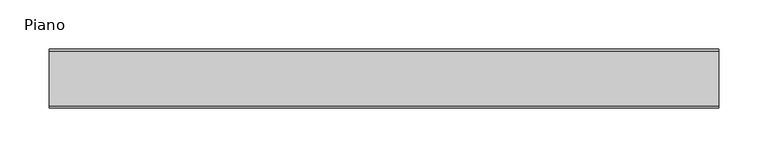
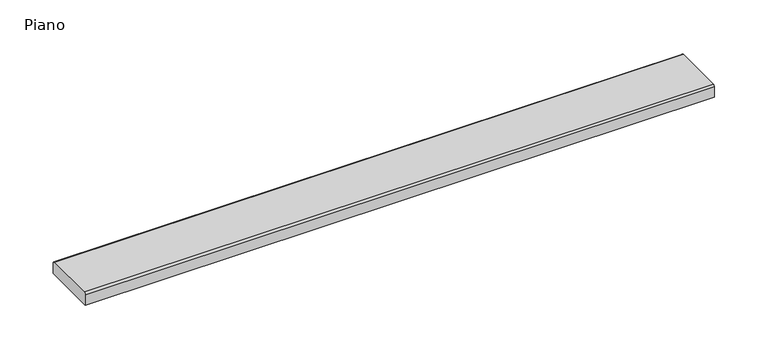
"""IFC4 building model written with IfcOpenShell, lengths in millimetres: sanitary terminal geometry, ZZZ_do not use_PF_UN_grating ShowerDrain C (INT)_ACO : Piano."""

import ifcopenshell
import ifcopenshell.guid

model = None  # the IFC model being written
_history = None  # IfcOwnerHistory: only IFC2X3 demands one
_inside = {}  # id of a spatial element -> (the spatial element, [elements in it])
_under = {}  # id of a project, library or spatial element -> (it, [spatial elements below it])
_declared = {}  # id of a project -> (the project, [libraries it declares])
_typed = {}  # id of a type object -> (the type object, [elements of that type])
_made_of = {}  # id of a material, layer set ... -> (it, [elements and type objects made of it])


def new_model(schema):
    """Start an empty IFC model of exactly this schema.

    Asked for "IFC4X3", IfcOpenShell would pick the latest addendum, in which some entities
    have other attributes; the version numbers below select the first issue.
    IFC2X3 requires an IfcOwnerHistory on every rooted entity: one is made here for all.
    """
    global model, _history
    if schema == "IFC4X3":
        model = ifcopenshell.file(schema_version=(4, 3, 0, 0))
    else:
        model = ifcopenshell.file(schema=schema)
    _inside.clear()
    _under.clear()
    _declared.clear()
    _typed.clear()
    _made_of.clear()
    _history = None
    if model.schema == "IFC2X3":
        org = make("IfcOrganization", Name="unknown")
        user = make(
            "IfcPersonAndOrganization",
            ThePerson=make("IfcPerson", FamilyName="unknown"),
            TheOrganization=org,
        )
        app = make(
            "IfcApplication",
            ApplicationDeveloper=org,
            Version="unknown",
            ApplicationFullName="unknown",
            ApplicationIdentifier="unknown",
        )
        _history = make(
            "IfcOwnerHistory",
            OwningUser=user,
            OwningApplication=app,
            ChangeAction="ADDED",
            CreationDate=0,
        )
    return model


def make(cls, **values):
    """One entity of the class cls with the attributes given. An attribute that is None is left unset."""
    return model.create_entity(
        cls, **{name: value for name, value in values.items() if value is not None}
    )


def rooted(cls, **values):
    """An entity with a GlobalId (a new one), such as an element, a storey or a relation."""
    return make(cls, GlobalId=ifcopenshell.guid.new(), OwnerHistory=_history, **values)


def si_unit(unit_type, name, prefix=None):
    """IfcSIUnit, for example si_unit("LENGTHUNIT", "METRE", prefix="MILLI")."""
    return make("IfcSIUnit", UnitType=unit_type, Prefix=prefix, Name=name)


def assignment(units):
    """IfcUnitAssignment: the units of a project."""
    return None if units is None else make("IfcUnitAssignment", Units=units)


def point(xyz):
    """IfcCartesianPoint."""
    return None if xyz is None else make("IfcCartesianPoint", Coordinates=xyz)


def direction(xyz):
    """IfcDirection."""
    return None if xyz is None else make("IfcDirection", DirectionRatios=xyz)


def frame(location, z_axis=None, x_axis=None):
    """IfcAxis2Placement3D, a coordinate frame: its origin and axes. An axis left out is left unset."""
    return make(
        "IfcAxis2Placement3D",
        Location=point(location),
        Axis=direction(z_axis),
        RefDirection=direction(x_axis),
    )


def frame_2d(location, x_axis=None):
    """IfcAxis2Placement2D, a coordinate frame in the plane: its origin and x axis."""
    return make(
        "IfcAxis2Placement2D", Location=point(location), RefDirection=direction(x_axis)
    )


def origin():
    """The frame at (0, 0, 0) with its axes left unset."""
    return frame((0.0, 0.0, 0.0))


def place(relative_to, where):
    """IfcLocalPlacement: puts the frame where relative to a parent placement (None: the world)."""
    return make(
        "IfcLocalPlacement", PlacementRelTo=relative_to, RelativePlacement=where
    )


def context(
    kind, dimensions, precision=None, world=None, true_north=None, identifier=None
):
    """IfcGeometricRepresentationContext, for example the 3D "Model" context."""
    return make(
        "IfcGeometricRepresentationContext",
        ContextIdentifier=identifier,
        ContextType=kind,
        CoordinateSpaceDimension=dimensions,
        Precision=precision,
        WorldCoordinateSystem=world,
        TrueNorth=true_north,
    )


def project(units=None, contexts=None):
    """IfcProject with its units and contexts."""
    return rooted(
        "IfcProject",
        Name="project",
        RepresentationContexts=contexts,
        UnitsInContext=assignment(units),
    )


def spatial(cls, under=None, at=None, **own):
    """A site, building, storey or space (cls), placed at a placement, below another one or the project."""
    s = rooted(cls, ObjectPlacement=at, **own)
    if under is not None:
        _under.setdefault(under.id(), (under, []))[1].append(s)
    return s


def polyline(points):
    """IfcPolyline through the points."""
    return make("IfcPolyline", Points=[point(p) for p in points])


def circle_curve(where, radius):
    """IfcCircle in the frame where."""
    return make("IfcCircle", Position=where, Radius=radius)


def trimmed(basis, trim1, trim2, sense, master):
    """IfcTrimmedCurve: the piece of a basis curve between two trims."""
    return make(
        "IfcTrimmedCurve",
        BasisCurve=basis,
        Trim1=trim1,
        Trim2=trim2,
        SenseAgreement=sense,
        MasterRepresentation=master,
    )


def segment(curve, same_sense, transition):
    """IfcCompositeCurveSegment."""
    return make(
        "IfcCompositeCurveSegment",
        Transition=transition,
        SameSense=same_sense,
        ParentCurve=curve,
    )


def composite_curve(segments, self_intersect=None):
    """IfcCompositeCurve: segments joined end to end."""
    return make("IfcCompositeCurve", Segments=segments, SelfIntersect=self_intersect)


def outline(outer, holes=None, kind="AREA"):
    """IfcArbitraryClosedProfileDef: a profile drawn as a closed curve; with holes, ...WithVoids."""
    if holes is None:
        return make("IfcArbitraryClosedProfileDef", ProfileType=kind, OuterCurve=outer)
    return make(
        "IfcArbitraryProfileDefWithVoids",
        ProfileType=kind,
        OuterCurve=outer,
        InnerCurves=holes,
    )


def extrude(swept, where, along, depth):
    """IfcExtrudedAreaSolid: the profile swept, set in the frame where, extruded along a direction by depth."""
    return make(
        "IfcExtrudedAreaSolid",
        SweptArea=swept,
        Position=where,
        ExtrudedDirection=direction(along),
        Depth=depth,
    )


def shape(context_of_items, identifier, shape_type, items):
    """IfcShapeRepresentation: the items that make up one representation, for example the "Body"."""
    return make(
        "IfcShapeRepresentation",
        ContextOfItems=context_of_items,
        RepresentationIdentifier=identifier,
        RepresentationType=shape_type,
        Items=items,
    )


def source(mapping_origin, context_of_items, identifier, shape_type, items):
    """IfcRepresentationMap: a shape defined once, which mapped items show again and again."""
    return make(
        "IfcRepresentationMap",
        MappingOrigin=mapping_origin,
        MappedRepresentation=shape(context_of_items, identifier, shape_type, items),
    )


def transform(
    local_origin,
    x_axis=None,
    y_axis=None,
    z_axis=None,
    scale=None,
    scale2=None,
    scale3=None,
    uniform=True,
):
    """IfcCartesianTransformationOperator3D, or its non-uniform kind. x_axis, y_axis, z_axis: its Axis1, 2, 3."""
    if uniform:
        return make(
            "IfcCartesianTransformationOperator3D",
            Axis1=direction(x_axis),
            Axis2=direction(y_axis),
            LocalOrigin=point(local_origin),
            Scale=scale,
            Axis3=direction(z_axis),
        )
    return make(
        "IfcCartesianTransformationOperator3DnonUniform",
        Axis1=direction(x_axis),
        Axis2=direction(y_axis),
        LocalOrigin=point(local_origin),
        Scale=scale,
        Axis3=direction(z_axis),
        Scale2=scale2,
        Scale3=scale3,
    )


def mapped(mapping_source, mapping_target):
    """IfcMappedItem: shows the shape of a source again, moved by a transform."""
    return make(
        "IfcMappedItem", MappingSource=mapping_source, MappingTarget=mapping_target
    )


def made_of(thing, what):
    """Note that an element or type object is made of a material, layer set ...; save() writes the relation."""
    if what is not None:
        _made_of.setdefault(what.id(), (what, []))[1].append(thing)
    return thing


def element(
    cls,
    number,
    at=None,
    inside=None,
    cuts=None,
    type_object=None,
    material=None,
    context=None,
    identifier="Body",
    shape_type=None,
    held_by="IfcProductDefinitionShape",
    body=None,
    shapes=None,
    **own,
):
    """One element of the class cls, such as IfcWall. Its Tag is "e" and its number.

    at: its placement. inside: the storey or other place that contains it. cuts: it is an
    opening in that element (IfcRelVoidsElement). A single representation is given by context,
    identifier, shape_type and body (its items); several are given by shapes. held_by: the class
    of the entity that holds the representations. save() writes the other relations.
    """
    e = rooted(cls, Tag="e%d" % number, ObjectPlacement=at, **own)
    if body is not None:
        shapes = [shape(context, identifier, shape_type, body)]
    if shapes is not None:
        e.Representation = make(held_by, Representations=shapes)
    if inside is not None:
        _inside.setdefault(inside.id(), (inside, []))[1].append(e)
    if cuts is not None:
        rooted(
            "IfcRelVoidsElement", RelatingBuildingElement=cuts, RelatedOpeningElement=e
        )
    if type_object is not None:
        _typed.setdefault(type_object.id(), (type_object, []))[1].append(e)
    return made_of(e, material)


def aggregate(whole, parts):
    """IfcRelAggregates: a whole, such as a stair, and the parts it consists of."""
    return rooted("IfcRelAggregates", RelatingObject=whole, RelatedObjects=parts)


def save(model, path):
    """Write the relations noted so far, then the file.

    IfcRelAggregates (storeys below a building ...), IfcRelContainedInSpatialStructure (elements
    in a storey), IfcRelDefinesByType, IfcRelAssociatesMaterial and IfcRelDeclares: one each for
    every whole, place, type object, material and project.
    """
    for whole, parts in _under.values():
        aggregate(whole, parts)
    for where, things in _inside.values():
        rooted(
            "IfcRelContainedInSpatialStructure",
            RelatedElements=things,
            RelatingStructure=where,
        )
    for kind, things in _typed.values():
        rooted("IfcRelDefinesByType", RelatedObjects=things, RelatingType=kind)
    for what, things in _made_of.values():
        rooted("IfcRelAssociatesMaterial", RelatedObjects=things, RelatingMaterial=what)
    for by, libraries in _declared.values():
        rooted("IfcRelDeclares", RelatingContext=by, RelatedDefinitions=libraries)
    model.write(path)


def piano_823838a0(model_context):
    return source(origin(), model_context, "Body", "SweptSolid", [
        extrude(outline(composite_curve([segment(polyline([(30.0, -14.0), (-30.0, -14.0), (-30.0, -1.977849)]), True, "CONTINUOUS"), segment(trimmed(circle_curve(frame_2d((-28.022151, -1.977849)), 1.977849), [point((-30.0, -1.977849))], [point((-28.022151, 0.0))], False, "CARTESIAN"), True, "CONTINUOUS"), segment(polyline([(-28.022151, 0.0), (28.022151, 0.0)]), True, "CONTINUOUS"), segment(trimmed(circle_curve(frame_2d((28.022151, -1.977849)), 1.977849), [point((28.022151, 0.0))], [point((30.0, -1.977849))], False, "CARTESIAN"), True, "CONTINUOUS"), segment(polyline([(30.0, -1.977849), (30.0, -14.0)]), True, "CONTINUOUS")], self_intersect=False)), frame((-340.5, 0.0, 0.0), z_axis=(1.0, 0.0, 0.0), x_axis=(0.0, 1.0, 0.0)), (0.0, 0.0, 1.0), 681.0),
    ])


if __name__ == "__main__":
    model = new_model("IFC4")
    model_context = context("Model", 3, world=origin())
    ifc_project = project(units=[si_unit("LENGTHUNIT", "METRE", prefix="MILLI")], contexts=[model_context])
    site = spatial("IfcSite", under=ifc_project)
    building = spatial("IfcBuilding", under=site)
    placement = place(None, origin())
    piano_shape = piano_823838a0(model_context)
    element("IfcSanitaryTerminal", 1, ObjectType="ZZZ_do not use_PF_UN_grating ShowerDrain C (INT)_ACO : Piano", at=placement, inside=building, context=model_context, shape_type="MappedRepresentation", body=[
        mapped(piano_shape, transform((0.0, 0.0, 0.0), x_axis=(1.0, 0.0, 0.0), y_axis=(0.0, 1.0, 0.0), z_axis=(0.0, 0.0, 1.0))),
    ])
    save(model, "model.ifc")
